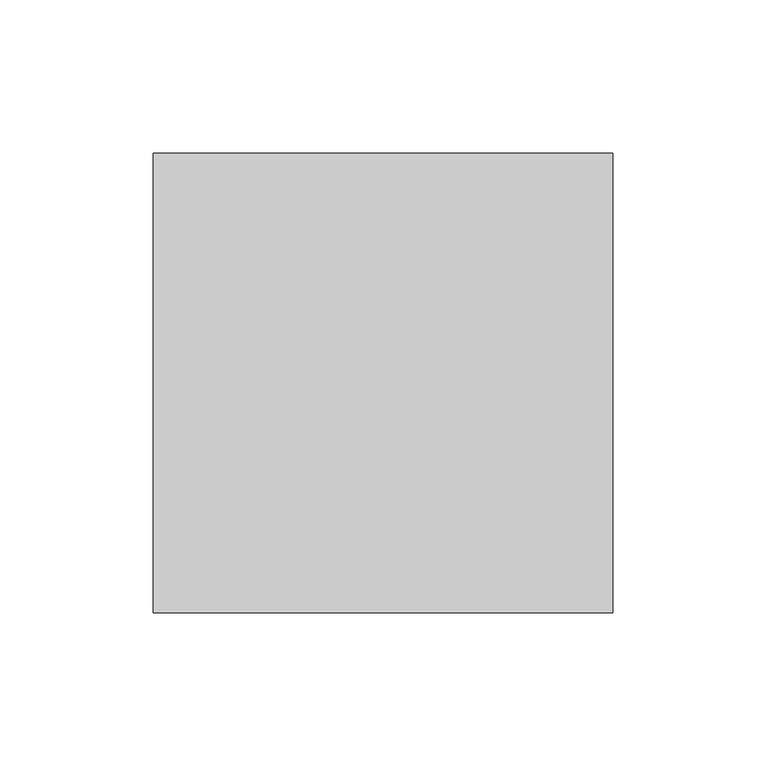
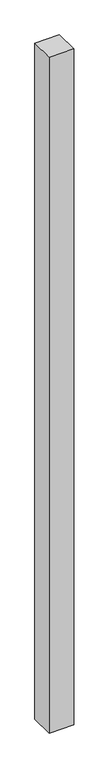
"""IFC4 building model written with IfcOpenShell, lengths in millimetres: proxy geometry, Брус : 150х150."""

from ifc_helpers import new_model, si_unit, origin, origin_with_axes, place, context, project, spatial, polyline, outline, extrude, source, transform, mapped, element, save


def generic_models_0a0f0701(model_context):
    return source(origin(), model_context, "Body", "SweptSolid", [
        extrude(outline(polyline([(150.0, 0.0), (0.0, 0.0), (0.0, 150.0), (150.0, 150.0), (150.0, 0.0)])), origin_with_axes(), (0.0, 0.0, 1.0), 4370.0),
    ])


if __name__ == "__main__":
    model = new_model("IFC4")
    model_context = context("Model", 3, world=origin())
    ifc_project = project(units=[si_unit("LENGTHUNIT", "METRE", prefix="MILLI")], contexts=[model_context])
    site = spatial("IfcSite", under=ifc_project)
    building = spatial("IfcBuilding", under=site)
    placement = place(None, origin())
    generic_models_shape = generic_models_0a0f0701(model_context)
    element("IfcBuildingElementProxy", 1, Name="Брус : 150х150", ObjectType="Брус : 150х150", at=placement, inside=building, context=model_context, shape_type="MappedRepresentation", body=[
        mapped(generic_models_shape, transform((0.0, 0.0, 0.0), x_axis=(1.0, 0.0, 0.0), y_axis=(0.0, 1.0, 0.0), z_axis=(0.0, 0.0, 1.0))),
    ])
    save(model, "model.ifc")
